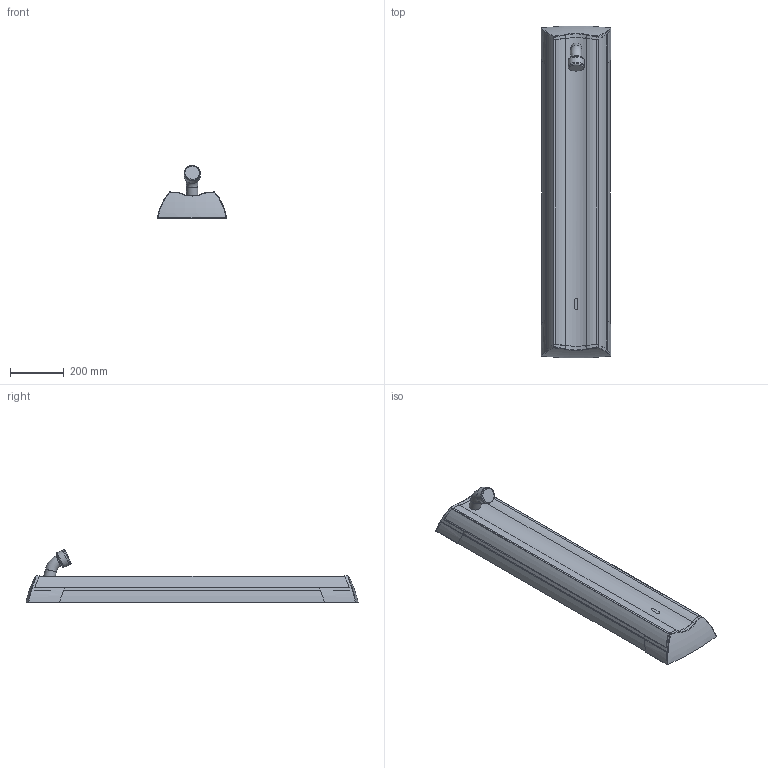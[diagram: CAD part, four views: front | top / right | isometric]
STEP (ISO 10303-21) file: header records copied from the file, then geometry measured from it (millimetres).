
FILE_DESCRIPTION (( 'STEP AP203' ), '1' );
FILE_NAME ('6661F+6661FT.STEP', '2017-03-09T05:57:56', ( '' ), ( '' ), 'SwSTEP 2.0', 'SolidWorks 2016', '' );
FILE_SCHEMA (( 'CONFIG_CONTROL_DESIGN' ));
Length unit declared in the file: millimetre
Products named in the file (1): 6661F+6661FT
Bounding box: 257.76 x 1234.96 x 196.63 mm (x, y, z)
Volume: 23911780.2 mm3; surface area: 1134345.2 mm2
Topology: 2 solids, 4 shells, 113 faces, 309 edges, 199 vertices
Faces by surface type: plane 38, cylinder 37, sphere 18, bspline 14, torus 6
Full cylindrical faces by diameter (mm): 42 x2, 60 x1, 60.3 x1
Entity records: 3727 total; most frequent: CARTESIAN_POINT 1599, ORIENTED_EDGE 462, DIRECTION 366, EDGE_CURVE 231, VERTEX_POINT 151, AXIS2_PLACEMENT_3D 126, VECTOR 114, LINE 114
